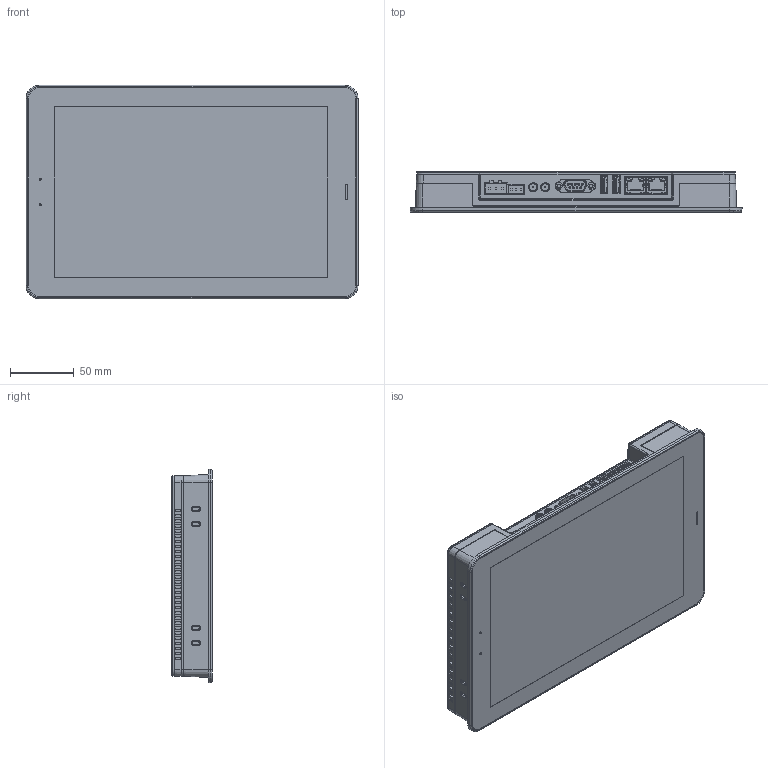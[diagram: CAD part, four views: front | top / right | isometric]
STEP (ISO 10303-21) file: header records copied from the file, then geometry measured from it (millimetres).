
FILE_DESCRIPTION (( 'STEP AP203' ), '1' );
FILE_NAME ('HMI-A10Pro炵蹈 籵蚚3D.STEP', '2024-03-19T11:43:40', ( 'h''w''s''j''s' ), ( '' ), 'SwSTEP 2.0', 'SolidWorks 2020', '' );
FILE_SCHEMA (( 'CONFIG_CONTROL_DESIGN' ));
Products named in the file (1): HMI-A10Pro炵蹈 籵蚚3D
Bounding box: 260.29 x 31.61 x 167.29 mm (x, y, z)
Surface area: 428208.7 mm2 (no closed solid volume)
Topology: 0 solids, 45 shells, 3862 faces, 10834 edges, 7035 vertices
Faces by surface type: plane 2988, cylinder 626, cone 82, bspline 56, sphere 55, torus 55
Entity records: 143837 total; most frequent: CARTESIAN_POINT 52387, ORIENTED_EDGE 21560, DIRECTION 14929, EDGE_CURVE 10781, VERTEX_POINT 7029, VECTOR 5245, LINE 5245, AXIS2_PLACEMENT_3D 4842
